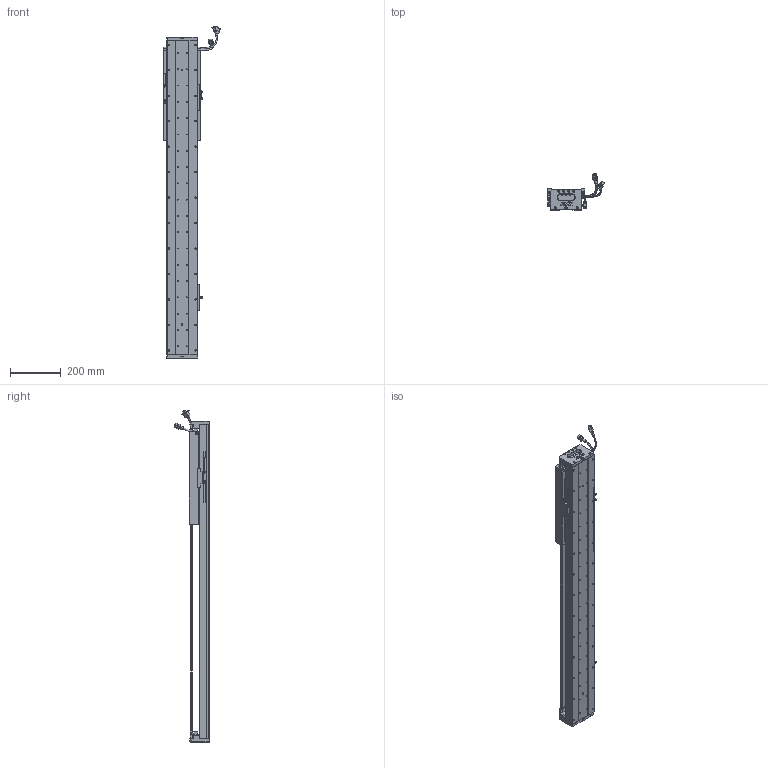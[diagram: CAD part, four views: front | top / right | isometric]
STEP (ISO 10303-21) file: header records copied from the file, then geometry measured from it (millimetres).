
FILE_DESCRIPTION (( 'STEP AP203' ), '1' );
FILE_NAME ('Z5-RY120D-1-L500-B-K.SLDASM_0800.step', '2021-05-17T06:21:50', ( '盈信电脑' ), ( '东莞市道滘镇水果街19号' ), 'SwSTEP 2.0', 'SolidWorks 2016', '' );
FILE_SCHEMA (( 'CONFIG_CONTROL_DESIGN' ));
Length unit declared in the file: millimetre
Products named in the file (37): PSLH080_PSLF2; LABEL-Part-1; SHIELDPLATE; Z5-RY120铝滑块（21款）; COVER; SCALE-Part-2; SEAL; SCALE-Part-1; SCREW-M1.7-1; 672嫖萇羲壽假蚾釱; SCREW-M1.6-2; SEAL-Part-1; HARNESS; 140雄赽晤鎢ん堤盄; SCREW-M1.6; Z5-RY120-L500詩湍100mm遵_0800; HOLDER0; Z5-RY120D-1-L500-B-K.SLDASM_0800; 覜茼ん672; Z-120詩湍傷裔啣; HARNESS-Part-1; Z-RY120D詩湍狟揤裔; 080黍杅芛假蚾釱21遴; SCREW-M1.6-3; SCREW-M1.7; SCALE; Z-RY120D詩湍奻揤裔; HARNESS-Part-2; COVER-Part-1; LABEL; 120-Z-臏賑輸盄裔(21遴); SCREW-M1.6-1; 140蚥薯蝶輸; Z5-RY120-500-倰第菁釱_0800; 榋妏寠巭燃_暯_M2_2; PBU_SHEET; RY100FB-遵嫖萇覜茼え
Assembly tree (43 placements, depth 4):
  Z5-RY120D-1-L500-B-K.SLDASM_0800
    Z5-RY120-500-倰第菁釱_0800
    覜茼ん672  x3
    672嫖萇羲壽假蚾釱  x2
    Z5-RY120铝滑块（21款）
    PSLH080_PSLF2
      SCALE
        SCALE-Part-1
        SCALE-Part-2
      HARNESS
        HARNESS-Part-1
        HARNESS-Part-2
      LABEL
        LABEL-Part-1
      COVER
        COVER-Part-1
      SEAL
        SEAL-Part-1
      榋妏寠巭燃_暯_M2_2
      SHIELDPLATE
      SCREW-M1.7
      SCREW-M1.7-1
      PBU_SHEET
      SCREW-M1.6
      SCREW-M1.6-1
      SCREW-M1.6-2
      SCREW-M1.6-3
      HOLDER0
    080黍杅芛假蚾釱21遴
    120-Z-臏賑輸盄裔(21遴)
    140雄赽晤鎢ん堤盄
    140蚥薯蝶輸  x2
    RY100FB-遵嫖萇覜茼え
    Z-120詩湍傷裔啣  x2
    Z-RY120D詩湍奻揤裔  x2
    Z-RY120D詩湍狟揤裔  x2
    Z5-RY120-L500詩湍100mm遵_0800
Bounding box: 222.88 x 140.94 x 1304 mm (x, y, z)
Volume: 3860103.3 mm3; surface area: 1242163.2 mm2
Topology: 38 solids, 38 shells, 3013 faces, 8217 edges, 5194 vertices
Faces by surface type: cylinder 1443, plane 1154, cone 294, torus 69, bspline 53
Entity records: 92800 total; most frequent: CARTESIAN_POINT 25433, ORIENTED_EDGE 13370, DIRECTION 13001, EDGE_CURVE 6685, AXIS2_PLACEMENT_3D 4788, VERTEX_POINT 4314, VECTOR 3425, LINE 3425
